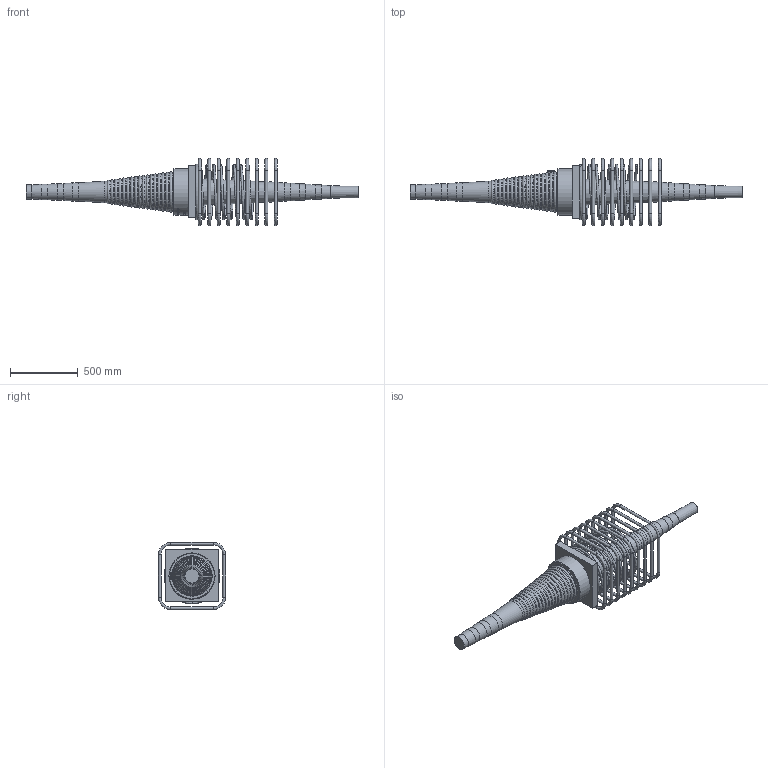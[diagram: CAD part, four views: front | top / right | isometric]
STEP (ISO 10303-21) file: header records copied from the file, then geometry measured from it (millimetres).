
FILE_DESCRIPTION(/* description */ (''),/* implementation_level */ '2;1');
FILE_NAME(/* name */ 'Z:\04 Publications\05 Give-out\BBR\6_3D_Models\BBR VT CONA CMI\BBR VT CONA CMI SP\02406\BBR VT CONA CMI SP 2406_Couler K Assembly_CS-34,28.stp',/* time_stamp */ '2017-05-09T09:52:49+02:00',/* author */ ('IP'),/* organization */ (''),/* preprocessor_version */ 'ST-DEVELOPER v16.1',/* originating_system */ 'Autodesk Inventor 2016',/* authorisation */ '');
FILE_SCHEMA (('AUTOMOTIVE_DESIGN { 1 0 10303 214 3 1 1 }'));
Products named in the file (1): BBR VT CONA CMI SP 2406_Couler K Assembly_CS-34,28
Bounding box: 2445.2 x 495 x 495 mm (x, y, z)
Volume: 73347340.4 mm3; surface area: 3134580.4 mm2
Topology: 11 solids, 11 shells, 908 faces, 2342 edges, 1497 vertices
Faces by surface type: bspline 416, plane 260, cylinder 108, torus 100, cone 24
Full cylindrical faces by diameter (mm): 20 x36, 34 x1, 57 x1, 104 x1, 114 x1, 124 x1, 134 x1, 330 x1, 340 x1
Entity records: 41043 total; most frequent: CARTESIAN_POINT 21838, ORIENTED_EDGE 4340, DIRECTION 2773, EDGE_CURVE 2168, VERTEX_POINT 1492, EDGE_LOOP 1140, AXIS2_PLACEMENT_3D 946, FACE_OUTER_BOUND 908
